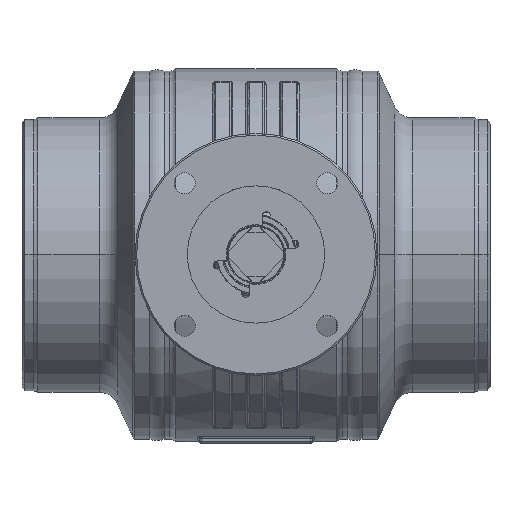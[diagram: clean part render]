
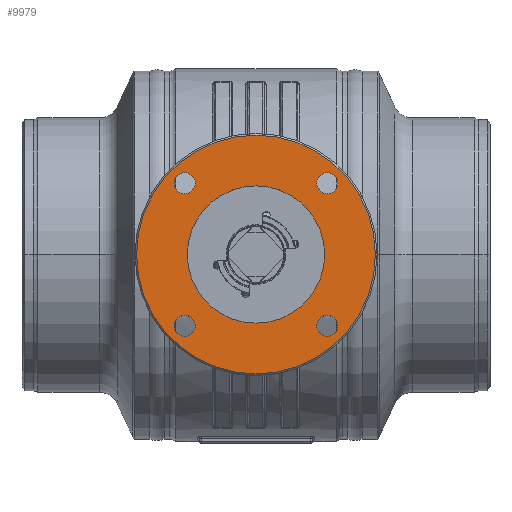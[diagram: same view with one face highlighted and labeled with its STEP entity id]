
A CAD part, top view. The second image highlights one B-rep face of the part: STEP entity #9979.
In plain terms, the highlighted planar face has unit normal (0, 0, 1).
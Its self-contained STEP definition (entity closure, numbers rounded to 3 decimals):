
#1085=CARTESIAN_POINT('',(0.,0.,228.));
#1086=DIRECTION('',(0.,0.,-1.));
#1087=DIRECTION('',(0.,-1.,0.));
#1088=AXIS2_PLACEMENT_3D('',#1085,#1086,#1087);
#1090=CARTESIAN_POINT('',(0.,0.,228.));
#1091=DIRECTION('',(0.,0.,-1.));
#1092=DIRECTION('',(0.,1.,0.));
#1093=AXIS2_PLACEMENT_3D('',#1090,#1091,#1092);
#1095=CARTESIAN_POINT('',(0.,0.,228.));
#1096=DIRECTION('',(0.,0.,-1.));
#1097=DIRECTION('',(0.,1.,0.));
#1098=AXIS2_PLACEMENT_3D('',#1095,#1096,#1097);
#1100=CARTESIAN_POINT('',(0.,0.,228.));
#1101=DIRECTION('',(0.,0.,1.));
#1102=DIRECTION('',(0.,1.,0.));
#1103=AXIS2_PLACEMENT_3D('',#1100,#1101,#1102);
#1105=CARTESIAN_POINT('',(44.194,-44.194,228.));
#1106=DIRECTION('',(0.,0.,-1.));
#1107=DIRECTION('',(0.,1.,0.));
#1108=AXIS2_PLACEMENT_3D('',#1105,#1106,#1107);
#1110=CARTESIAN_POINT('',(44.194,-44.194,228.));
#1111=DIRECTION('',(0.,0.,-1.));
#1112=DIRECTION('',(0.,-1.,0.));
#1113=AXIS2_PLACEMENT_3D('',#1110,#1111,#1112);
#1115=CARTESIAN_POINT('',(-44.194,-44.194,228.));
#1116=DIRECTION('',(0.,0.,-1.));
#1117=DIRECTION('',(0.,1.,0.));
#1118=AXIS2_PLACEMENT_3D('',#1115,#1116,#1117);
#1120=CARTESIAN_POINT('',(-44.194,-44.194,228.));
#1121=DIRECTION('',(0.,0.,-1.));
#1122=DIRECTION('',(0.,-1.,0.));
#1123=AXIS2_PLACEMENT_3D('',#1120,#1121,#1122);
#1125=CARTESIAN_POINT('',(-44.194,44.194,228.));
#1126=DIRECTION('',(0.,0.,-1.));
#1127=DIRECTION('',(0.,1.,0.));
#1128=AXIS2_PLACEMENT_3D('',#1125,#1126,#1127);
#1130=CARTESIAN_POINT('',(-44.194,44.194,228.));
#1131=DIRECTION('',(0.,0.,-1.));
#1132=DIRECTION('',(0.,-1.,0.));
#1133=AXIS2_PLACEMENT_3D('',#1130,#1131,#1132);
#1135=CARTESIAN_POINT('',(44.194,44.194,228.));
#1136=DIRECTION('',(0.,0.,-1.));
#1137=DIRECTION('',(0.,1.,0.));
#1138=AXIS2_PLACEMENT_3D('',#1135,#1136,#1137);
#1140=CARTESIAN_POINT('',(44.194,44.194,228.));
#1141=DIRECTION('',(0.,0.,-1.));
#1142=DIRECTION('',(0.,-1.,0.));
#1143=AXIS2_PLACEMENT_3D('',#1140,#1141,#1142);
#7950=CARTESIAN_POINT('',(0.,42.55,228.));
#7952=VERTEX_POINT('',#7950);
#7954=CARTESIAN_POINT('',(0.,-42.55,228.));
#7956=VERTEX_POINT('',#7954);
#8017=CARTESIAN_POINT('',(44.194,-37.694,228.));
#8018=CARTESIAN_POINT('',(44.194,-50.694,228.));
#8019=VERTEX_POINT('',#8017);
#8020=VERTEX_POINT('',#8018);
#8025=CARTESIAN_POINT('',(-44.194,-37.694,228.));
#8026=CARTESIAN_POINT('',(-44.194,-50.694,228.));
#8027=VERTEX_POINT('',#8025);
#8028=VERTEX_POINT('',#8026);
#8033=CARTESIAN_POINT('',(-44.194,50.694,228.));
#8034=CARTESIAN_POINT('',(-44.194,37.694,228.));
#8035=VERTEX_POINT('',#8033);
#8036=VERTEX_POINT('',#8034);
#8041=CARTESIAN_POINT('',(44.194,50.694,228.));
#8042=CARTESIAN_POINT('',(44.194,37.694,228.));
#8043=VERTEX_POINT('',#8041);
#8044=VERTEX_POINT('',#8042);
#8057=CARTESIAN_POINT('',(0.,-74.,228.));
#8058=CARTESIAN_POINT('',(0.,74.,228.));
#8059=VERTEX_POINT('',#8057);
#8060=VERTEX_POINT('',#8058);
#9940=CARTESIAN_POINT('',(0.,0.,228.));
#9941=DIRECTION('',(0.,0.,-1.));
#9942=DIRECTION('',(0.,1.,0.));
#9943=AXIS2_PLACEMENT_3D('',#9940,#9941,#9942);
#9944=PLANE('',#9943);
#9945=ORIENTED_EDGE('',*,*,#9907,.T.);
#9946=ORIENTED_EDGE('',*,*,#9922,.T.);
#9947=EDGE_LOOP('',(#9945,#9946));
#9948=FACE_OUTER_BOUND('',#9947,.F.);
#9950=ORIENTED_EDGE('',*,*,#9949,.F.);
#9952=ORIENTED_EDGE('',*,*,#9951,.T.);
#9953=EDGE_LOOP('',(#9950,#9952));
#9954=FACE_BOUND('',#9953,.F.);
#9956=ORIENTED_EDGE('',*,*,#9955,.F.);
#9958=ORIENTED_EDGE('',*,*,#9957,.F.);
#9959=EDGE_LOOP('',(#9956,#9958));
#9960=FACE_BOUND('',#9959,.F.);
#9962=ORIENTED_EDGE('',*,*,#9961,.F.);
#9964=ORIENTED_EDGE('',*,*,#9963,.F.);
#9965=EDGE_LOOP('',(#9962,#9964));
#9966=FACE_BOUND('',#9965,.F.);
#9968=ORIENTED_EDGE('',*,*,#9967,.F.);
#9970=ORIENTED_EDGE('',*,*,#9969,.F.);
#9971=EDGE_LOOP('',(#9968,#9970));
#9972=FACE_BOUND('',#9971,.F.);
#9974=ORIENTED_EDGE('',*,*,#9973,.F.);
#9976=ORIENTED_EDGE('',*,*,#9975,.F.);
#9977=EDGE_LOOP('',(#9974,#9976));
#9978=FACE_BOUND('',#9977,.F.);
#9979=ADVANCED_FACE('',(#9948,#9954,#9960,#9966,#9972,#9978),#9944,.F.);
#1089=CIRCLE('',#1088,74.);
#1094=CIRCLE('',#1093,74.);
#1099=CIRCLE('',#1098,42.55);
#1104=CIRCLE('',#1103,42.55);
#1109=CIRCLE('',#1108,6.5);
#1114=CIRCLE('',#1113,6.5);
#1119=CIRCLE('',#1118,6.5);
#1124=CIRCLE('',#1123,6.5);
#1129=CIRCLE('',#1128,6.5);
#1134=CIRCLE('',#1133,6.5);
#1139=CIRCLE('',#1138,6.5);
#1144=CIRCLE('',#1143,6.5);
#9907=EDGE_CURVE('',#8059,#8060,#1089,.T.);
#9922=EDGE_CURVE('',#8060,#8059,#1094,.T.);
#9949=EDGE_CURVE('',#7952,#7956,#1099,.T.);
#9951=EDGE_CURVE('',#7952,#7956,#1104,.T.);
#9955=EDGE_CURVE('',#8019,#8020,#1109,.T.);
#9957=EDGE_CURVE('',#8020,#8019,#1114,.T.);
#9961=EDGE_CURVE('',#8027,#8028,#1119,.T.);
#9963=EDGE_CURVE('',#8028,#8027,#1124,.T.);
#9967=EDGE_CURVE('',#8035,#8036,#1129,.T.);
#9969=EDGE_CURVE('',#8036,#8035,#1134,.T.);
#9973=EDGE_CURVE('',#8043,#8044,#1139,.T.);
#9975=EDGE_CURVE('',#8044,#8043,#1144,.T.);
